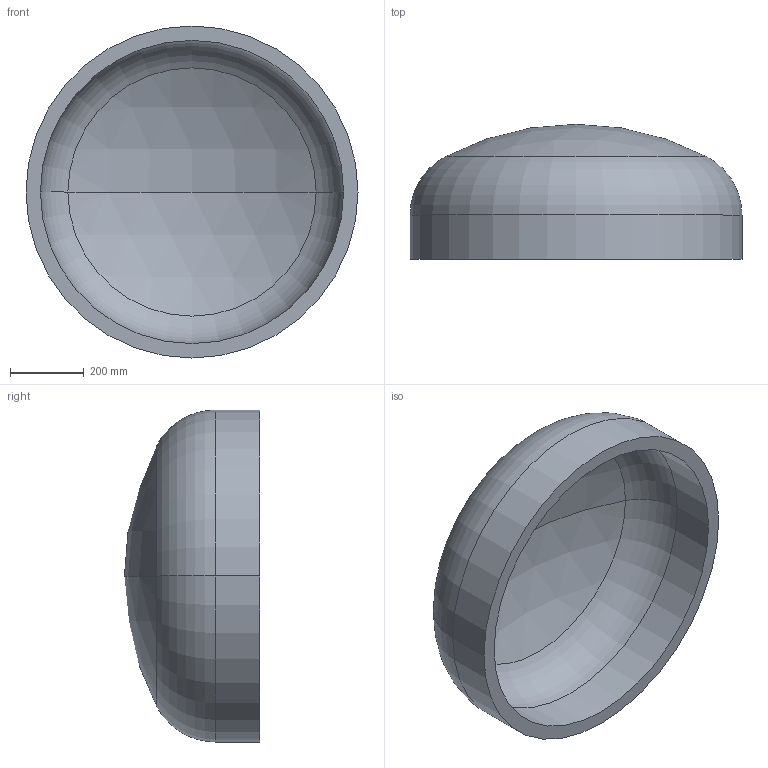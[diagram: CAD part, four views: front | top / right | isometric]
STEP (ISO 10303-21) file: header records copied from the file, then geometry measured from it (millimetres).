
FILE_DESCRIPTION (( 'STEP AP203' ), '1' );
FILE_NAME ('DIN 28013 Korbbogenform_-_Boden DIN 28013 - 900 x 120 - I - s=39.step', '2016-07-01T08:31:05', ( '' ), ( '' ), 'SwSTEP 2.0', 'SolidWorks 2013', '' );
FILE_SCHEMA (( 'CONFIG_CONTROL_DESIGN' ));
Length unit declared in the file: millimetre
Products named in the file (1): DIN 28013 Korbbogenform_-_Boden DIN 28013 - 900 x 120 - I - s=39
Bounding box: 900 x 366.2 x 900 mm (x, y, z)
Volume: 45217154.8 mm3; surface area: 2427505 mm2
Topology: 1 solids, 1 shells, 13 faces, 24 edges, 14 vertices
Faces by surface type: torus 4, cylinder 4, sphere 4, plane 1
Entity records: 407 total; most frequent: DIRECTION 72, CARTESIAN_POINT 52, ORIENTED_EDGE 48, AXIS2_PLACEMENT_3D 34, EDGE_CURVE 24, CIRCLE 20, EDGE_LOOP 14, VERTEX_POINT 14
